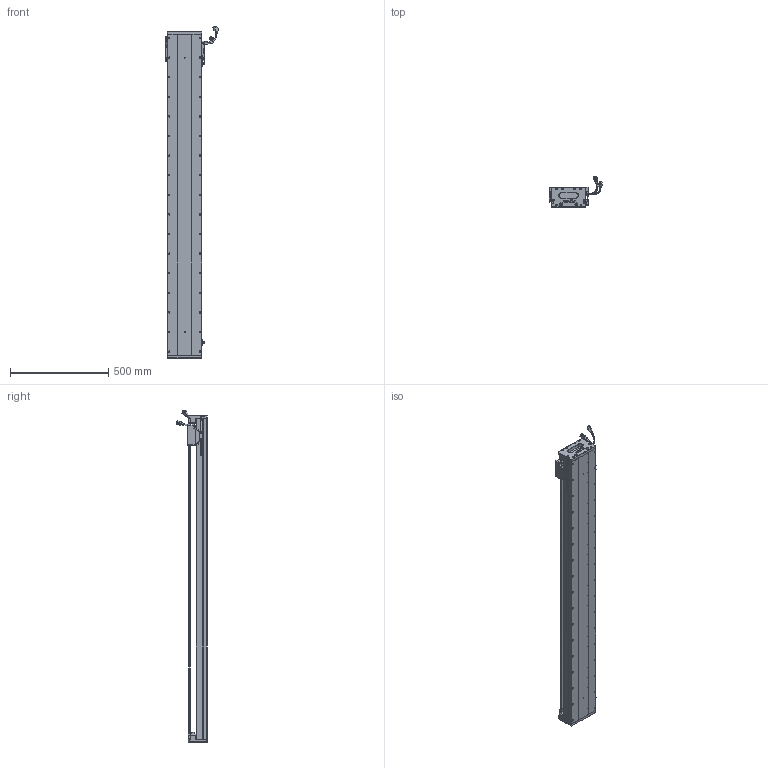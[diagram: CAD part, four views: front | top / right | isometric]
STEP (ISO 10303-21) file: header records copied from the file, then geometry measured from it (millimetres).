
FILE_DESCRIPTION (( 'STEP AP203' ), '1' );
FILE_NAME ('Z1-RY170D-1-L500-B-K.SLDASM_1450.step', '2021-05-17T08:53:08', ( '盈信电脑' ), ( '东莞市道滘镇水果街19号' ), 'SwSTEP 2.0', 'SolidWorks 2016', '' );
FILE_SCHEMA (( 'CONFIG_CONTROL_DESIGN' ));
Length unit declared in the file: millimetre
Products named in the file (36): SEAL; SCREW-M1.6-3; SCREW-M1.6-1; HARNESS-Part-2; 140雄赽晤鎢ん堤盄; SCALE-Part-2; Z-RY170詩湍狟揤裔; SCALE; Z-170詩湍傷裔啣; LABEL; Z1-RY170臏賑輸(21遴); Z-RY170詩湍奻揤裔; SEAL-Part-1; COVER-Part-1; HARNESS; 覜茼ん672; 170-Z-臏賑輸盄裔(21遴); 140蚥薯蝶輸; HOLDER0; PBU_SHEET; RY170直线电机感应器672光电感应片; SCALE-Part-1; SHIELDPLATE; SCREW-M1.7; SCREW-M1.6-2; Z1-RY170D-1-L500-B-K.SLDASM_1450; COVER; LABEL-Part-1; SCREW-M1.7-1; 榋妏寠巭燃_暯_M2_2; Z1-RY170-L500詩湍145mm遵_1450; HARNESS-Part-1; Z1-RY170-L500耀郪菁釱_1450; 080黍杅芛假蚾釱21遴; SCREW-M1.6; PSLH080_PSLF2
Assembly tree (41 placements, depth 4):
  Z1-RY170D-1-L500-B-K.SLDASM_1450
    Z1-RY170-L500耀郪菁釱_1450
    RY170直线电机感应器672光电感应片
    Z1-RY170臏賑輸(21遴)
    覜茼ん672  x3
    PSLH080_PSLF2
      SCALE
        SCALE-Part-1
        SCALE-Part-2
      HARNESS
        HARNESS-Part-1
        HARNESS-Part-2
      LABEL
        LABEL-Part-1
      COVER
        COVER-Part-1
      SEAL
        SEAL-Part-1
      榋妏寠巭燃_暯_M2_2
      SHIELDPLATE
      SCREW-M1.7
      SCREW-M1.7-1
      PBU_SHEET
      SCREW-M1.6
      SCREW-M1.6-1
      SCREW-M1.6-2
      SCREW-M1.6-3
      HOLDER0
    080黍杅芛假蚾釱21遴
    Z1-RY170-L500詩湍145mm遵_1450
    Z-170詩湍傷裔啣  x2
    Z-RY170詩湍奻揤裔  x2
    Z-RY170詩湍狟揤裔  x2
    140蚥薯蝶輸  x2
    170-Z-臏賑輸盄裔(21遴)
    140雄赽晤鎢ん堤盄
Bounding box: 275.33 x 158.11 x 1693.72 mm (x, y, z)
Volume: 8472504.9 mm3; surface area: 2113266.7 mm2
Topology: 36 solids, 36 shells, 3366 faces, 9189 edges, 5769 vertices
Faces by surface type: cylinder 1608, plane 1208, cone 428, torus 69, bspline 53
Entity records: 102413 total; most frequent: CARTESIAN_POINT 27658, ORIENTED_EDGE 15094, DIRECTION 14355, EDGE_CURVE 7547, AXIS2_PLACEMENT_3D 5248, VERTEX_POINT 4887, LINE 3859, VECTOR 3859
